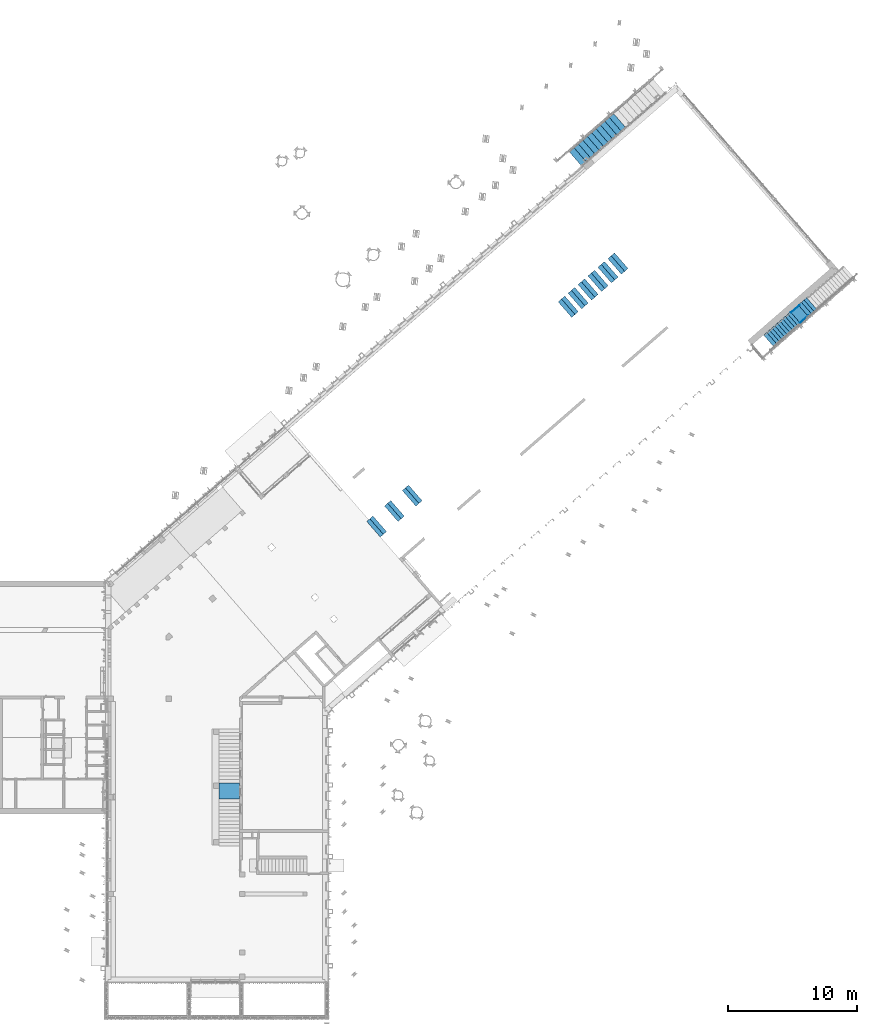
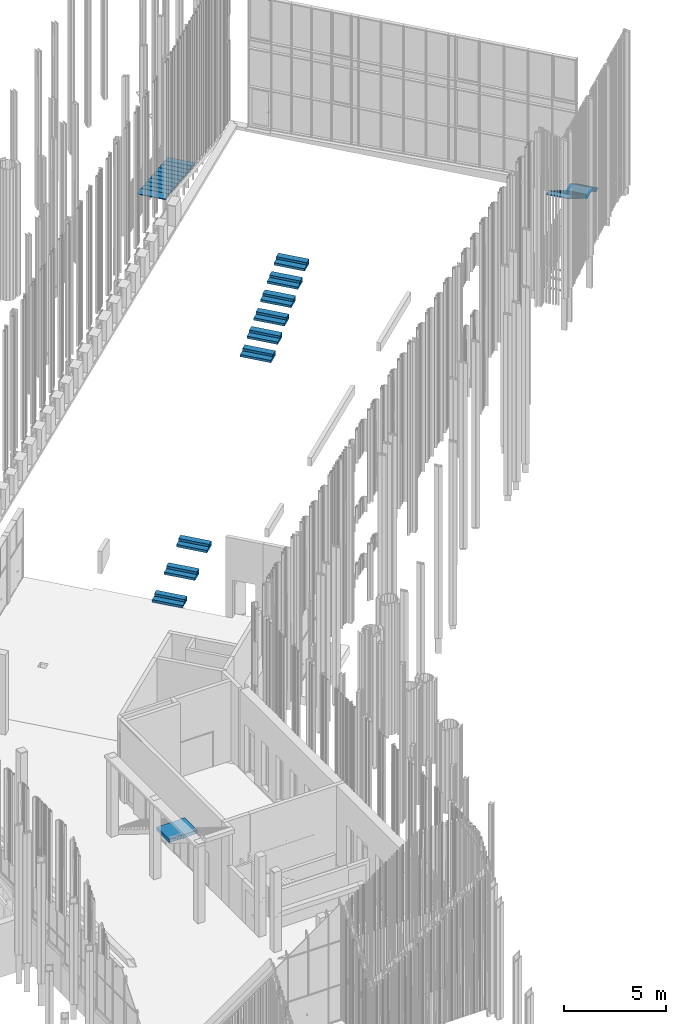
# One storey, part 26 of 390: 44 stairs, 3 elements without a shape of their own.
"""IFC2X3 building model written with IfcOpenShell, lengths in millimetres."""

from ifc_helpers import new_model, entity, si_unit, converted_unit, derived_unit, money_unit, direction, frame, origin_with_axes, place, context, subcontext, project, spatial, polyline, outline, extrude, faceted_brep, material, material_list, element, aggregate, save


model = new_model("IFC2X3")

# Units and contexts
model_context = context("Model", 3, precision=1e-05, world=origin_with_axes(), true_north=direction((0.0, 1.0)))
body_context = subcontext(model_context, "Body", "Model", "MODEL_VIEW")
ifc_project = project(units=[si_unit("LENGTHUNIT", "METRE", prefix="MILLI"), si_unit("AREAUNIT", "SQUARE_METRE"), si_unit("VOLUMEUNIT", "CUBIC_METRE"), converted_unit("PLANEANGLEUNIT", "DEGREE", entity("IfcPlaneAngleMeasure", 0.0174532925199), si_unit("PLANEANGLEUNIT", "RADIAN"), dimensions=[0, 0, 0, 0, 0, 0, 0]), si_unit("SOLIDANGLEUNIT", "STERADIAN"), money_unit("EUR"), converted_unit("TIMEUNIT", "Year", entity("IfcTimeMeasure", 31556926.0), si_unit("TIMEUNIT", "SECOND"), dimensions=[0, 0, 1, 0, 0, 0, 0]), si_unit("MASSUNIT", "GRAM", prefix="KILO"), si_unit("THERMODYNAMICTEMPERATUREUNIT", "DEGREE_CELSIUS"), si_unit("LUMINOUSINTENSITYUNIT", "LUMEN"), si_unit("ENERGYUNIT", "JOULE", prefix="MEGA"), derived_unit("THERMALCONDUCTANCEUNIT", [(si_unit("POWERUNIT", "WATT"), 1), (si_unit("LENGTHUNIT", "METRE"), -1), (si_unit("THERMODYNAMICTEMPERATUREUNIT", "KELVIN"), -1)]), derived_unit("SPECIFICHEATCAPACITYUNIT", [(si_unit("ENERGYUNIT", "JOULE"), 1), (si_unit("MASSUNIT", "GRAM", prefix="KILO"), -1), (si_unit("THERMODYNAMICTEMPERATUREUNIT", "KELVIN"), -1)]), derived_unit("MASSDENSITYUNIT", [(si_unit("MASSUNIT", "GRAM", prefix="KILO"), 1), (si_unit("VOLUMEUNIT", "CUBIC_METRE"), -1)])], contexts=[model_context])

# Site, building, storey
site_placement = place(None, origin_with_axes())
site = spatial("IfcSite", under=ifc_project, at=site_placement, Name="Site", CompositionType="ELEMENT")
building_placement = place(site_placement, origin_with_axes())
building = spatial("IfcBuilding", under=site, at=building_placement, Name="Building", CompositionType="ELEMENT")
storey_placement = place(building_placement, origin_with_axes())
storey = spatial("IfcBuildingStorey", under=building, at=storey_placement, Name="1 korrus", CompositionType="ELEMENT", Elevation=0.0)

# Stairs
ifc_material_1 = material(Name="Vineer")
stair_1_placement = place(storey_placement, frame((144585.286377, 82641.9593608, 600.0), z_axis=(0.0, 0.0, 1.0), x_axis=(1.0, 0.0, 0.0)))
element("IfcStair", 1, at=stair_1_placement, inside=storey, material=ifc_material_1, Name="Vineer", ShapeType="NOTDEFINED", context=body_context, shape_type="SweptSolid", body=[
    extrude(outline(polyline([(0.0, 0.0), (-483.014135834, -419.877773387), (566.680297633, -1627.41311297), (1049.694429, -1207.53533445), (0.0, 0.0)])), frame((0.0, 0.0, -150.0), z_axis=(0.0, 0.0, 1.0), x_axis=(1.0, 0.0, 0.0)), (0.0, 0.0, 1.0), 150.0),
])
stair_2_placement = place(storey_placement, frame((144585.286375, 82641.9593627, 750.0), z_axis=(0.0, 0.0, 1.0), x_axis=(1.0, 0.0, 0.0)))
element("IfcStair", 2, at=stair_2_placement, inside=storey, material=ifc_material_1, Name="Vineer", ShapeType="NOTDEFINED", context=body_context, shape_type="SweptSolid", body=[
    extrude(outline(polyline([(0.0, 0.0), (-241.507067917, -209.938886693), (808.18736555, -1417.47422628), (1049.69443064, -1207.53533633), (0.0, 0.0)])), frame((0.0, 0.0, -150.0), z_axis=(0.0, 0.0, 1.0), x_axis=(1.0, 0.0, 0.0)), (0.0, 0.0, 1.0), 150.0),
])
stair_3_placement = place(storey_placement, frame((143206.683511, 81443.5581337, 150.0), z_axis=(0.0, 0.0, 1.0), x_axis=(1.0, 0.0, 0.0)))
element("IfcStair", 3, at=stair_3_placement, inside=storey, material=ifc_material_1, Name="Vineer", ShapeType="NOTDEFINED", context=body_context, shape_type="Brep", body=[
    faceted_brep([(587.396879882, -1331.15175253, -250.0), (587.396879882, -1331.15175253, -300.0), (911.921987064, -1049.04626643, -300.0), (911.921987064, -1049.04626643, -85.382637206), (436.454871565, -1462.36356931, -85.382637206), (436.454886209, -1462.36355658, -150.0), (587.396879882, -1331.15175253, -150.0), (-324.525154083, -282.105406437, -150.0), (-324.525154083, -282.105406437, -300.0), (0.0, 0.0, -300.0), (1049.69443073, -1207.53533644, 0.0), (1049.69438002, -1207.5352781, -85.382637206), (0.0, 0.0, 0.0), (574.227274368, -1620.85257159, -85.382637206), (574.227352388, -1620.85266134, -150.0), (566.680297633, -1627.41311297, -150.0), (-483.014135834, -419.877773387, -150.0), (-483.014135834, -419.877773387, 0.0), (566.680297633, -1627.41311297, 0.0)], [[[0, 1, 2, 3, 4, 5, 6]], [[0, 6, 7, 8, 1]], [[1, 8, 9, 2]], [[10, 11, 3, 2, 9, 12]], [[3, 11, 13, 4]], [[14, 5, 4, 13]], [[6, 5, 14, 15, 16, 7]], [[7, 16, 17, 12, 9, 8]], [[15, 14, 13, 11, 10, 18]], [[17, 18, 10, 12]], [[16, 15, 18, 17]]]),
])
stair_4_placement = place(storey_placement, frame((143206.683513, 81443.5581318, 300.0), z_axis=(0.0, 0.0, 1.0), x_axis=(1.0, 0.0, 0.0)))
element("IfcStair", 4, at=stair_4_placement, inside=storey, material=ifc_material_1, Name="Vineer", ShapeType="NOTDEFINED", context=body_context, shape_type="SweptSolid", body=[
    extrude(outline(polyline([(0.0, 0.0), (-241.507067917, -209.938886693), (808.18736555, -1417.47422628), (1049.69442909, -1207.53533455), (0.0, 0.0)])), frame((0.0, 0.0, -150.0), z_axis=(0.0, 0.0, 1.0), x_axis=(1.0, 0.0, 0.0)), (0.0, 0.0, 1.0), 150.0),
])
stair_5_placement = place(storey_placement, frame((145963.889179, 83840.3605295, 1200.0), z_axis=(0.0, 0.0, 1.0), x_axis=(1.0, 0.0, 0.0)))
element("IfcStair", 5, at=stair_5_placement, inside=storey, material=ifc_material_1, Name="Vineer", ShapeType="NOTDEFINED", context=body_context, shape_type="SweptSolid", body=[
    extrude(outline(polyline([(0.0, 0.0), (-241.507067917, -209.938886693), (808.18736555, -1417.47422628), (1049.6944297, -1207.53533526), (0.0, 0.0)])), frame((0.0, 0.0, -150.0), z_axis=(0.0, 0.0, 1.0), x_axis=(1.0, 0.0, 0.0)), (0.0, 0.0, 1.0), 150.0),
])
stair_6_placement = place(storey_placement, frame((145963.889177, 83840.3605314, 1050.0), z_axis=(0.0, 0.0, 1.0), x_axis=(1.0, 0.0, 0.0)))
element("IfcStair", 6, at=stair_6_placement, inside=storey, material=ifc_material_1, Name="Vineer", ShapeType="NOTDEFINED", context=body_context, shape_type="SweptSolid", body=[
    extrude(outline(polyline([(0.0, 0.0), (-483.014135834, -419.877773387), (566.680297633, -1627.41311297), (1049.69443135, -1207.53533715), (0.0, 0.0)])), frame((0.0, 0.0, -150.0), z_axis=(0.0, 0.0, 1.0), x_axis=(1.0, 0.0, 0.0)), (0.0, 0.0, 1.0), 150.0),
])

stair_7_placement = place(storey_placement, frame((132879.999997, 64960.0000158, 0.0), z_axis=(0.0, 0.0, 1.0), x_axis=(1.0, 0.0, 0.0)))
stair_7 = element("IfcStair", 7, at=stair_7_placement, inside=storey, Name="T-04", ShapeType="NOTDEFINED")
ifc_material_2 = material(Name="GENEERILINE - KONSTRUKTRIOON")
stair_8_placement = place(stair_7_placement, origin_with_axes())
stair_8 = element("IfcStair", 8, at=stair_8_placement, material=ifc_material_2, Name="GENEERILINE - KONSTRUKTRIOON", ShapeType="NOTDEFINED", context=body_context, shape_type="Brep", body=[
    faceted_brep([(0.0, -4200.0, 2581.33333333), (-1600.0, -4200.0, 2581.33333333), (-1600.0, -4200.0, 2781.33333333), (0.0, -4200.0, 2781.33333333), (0.0, -4480.0, 2581.33333333), (-0.000398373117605, -5340.0, 2581.33333333), (-0.000388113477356, -5440.00097817, 2581.33333333), (-1600.00038811, -5440.00114232, 2581.33333333), (-1600.00039837, -5339.99918409, 2581.33333333), (-1600.0, -4480.00000002, 2581.33333333), (-1600.0, -4480.00000002, 2781.33333333), (-1600.00039837, -5339.99918409, 2781.33333333), (-1600.00038811, -5440.00114232, 2781.33333333), (-0.000388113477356, -5440.00097817, 2781.33333333), (-0.000398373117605, -5340.0, 2781.33333333), (0.0, -4480.0, 2781.33333333)], [[[0, 1, 2, 3]], [[0, 4, 5, 6, 7, 8, 9, 1]], [[1, 9, 10, 2]], [[3, 2, 10, 11, 12, 13, 14, 15]], [[4, 0, 3, 15]], [[5, 4, 15, 14]], [[6, 5, 14, 13]], [[7, 6, 13, 12]], [[8, 7, 12, 11]], [[9, 8, 11, 10]]]),
])
aggregate(stair_7, [stair_8])

stair_9_placement = place(storey_placement, frame((161913.30604, 101825.767542, 1657.125), z_axis=(0.0, 0.0, 1.0), x_axis=(1.0, 0.0, 0.0)))
element("IfcStair", 9, at=stair_9_placement, inside=storey, material=ifc_material_2, Name="GENEERILINE - KONSTRUKTRIOON", ShapeType="NOTDEFINED", context=body_context, shape_type="SweptSolid", body=[
    extrude(outline(polyline([(0.0, 0.0), (-256.601258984, -223.060067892), (793.093174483, -1430.59540748), (1049.6944295, -1207.53533502), (0.0, 0.0)])), frame((0.0, 0.0, -142.0), z_axis=(0.0, 0.0, 1.0), x_axis=(1.0, 0.0, 0.0)), (0.0, 0.0, 1.0), 142.0),
])
for number, where, z_axis, x_axis in (
    (10, (161913.306041, 101825.76754, 1515.125), (0.0, 0.0, 1.0), (1.0, 0.0, 0.0)),
    (11, (158064.287198, 98479.8664738, -619.25), (0.0, 0.0, 1.0), (1.0, 0.0, 0.0)),
):
    element("IfcStair", number, at=place(storey_placement, frame(where, z_axis=z_axis, x_axis=x_axis)), inside=storey, material=ifc_material_2, Name="GENEERILINE - KONSTRUKTRIOON", ShapeType="NOTDEFINED", context=body_context, shape_type="SweptSolid", body=[
        extrude(outline(polyline([(0.0, 0.0), (-513.2025186, -446.120135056), (536.491914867, -1653.65547464), (1049.69443091, -1207.53533664), (0.0, 0.0)])), frame((0.0, 0.0, -142.0), z_axis=(0.0, 0.0, 1.0), x_axis=(1.0, 0.0, 0.0)), (0.0, 0.0, 1.0), 142.0),
    ])
stair_10_placement = place(storey_placement, frame((158064.287199, 98479.8664722, -477.25), z_axis=(0.0, 0.0, 1.0), x_axis=(1.0, 0.0, 0.0)))
element("IfcStair", 12, at=stair_10_placement, inside=storey, material=ifc_material_2, Name="GENEERILINE - KONSTRUKTRIOON", ShapeType="NOTDEFINED", context=body_context, shape_type="SweptSolid", body=[
    extrude(outline(polyline([(0.0, 0.0), (-256.601258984, -223.060067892), (793.093174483, -1430.59540748), (1049.6944295, -1207.53533502), (0.0, 0.0)])), frame((0.0, 0.0, -142.0), z_axis=(0.0, 0.0, 1.0), x_axis=(1.0, 0.0, 0.0)), (0.0, 0.0, 1.0), 142.0),
])
stair_11_placement = place(storey_placement, frame((158834.090967, 99149.0466862, -192.375), z_axis=(0.0, 0.0, 1.0), x_axis=(1.0, 0.0, 0.0)))
element("IfcStair", 13, at=stair_11_placement, inside=storey, material=ifc_material_2, Name="GENEERILINE - KONSTRUKTRIOON", ShapeType="NOTDEFINED", context=body_context, shape_type="SweptSolid", body=[
    extrude(outline(polyline([(0.0, 0.0), (-513.2025186, -446.120135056), (536.491914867, -1653.65547464), (1049.69443091, -1207.53533664), (0.0, 0.0)])), frame((0.0, 0.0, -142.0), z_axis=(0.0, 0.0, 1.0), x_axis=(1.0, 0.0, 0.0)), (0.0, 0.0, 1.0), 142.0),
])
stair_12_placement = place(storey_placement, frame((158834.090969, 99149.0466846, -50.375), z_axis=(0.0, 0.0, 1.0), x_axis=(1.0, 0.0, 0.0)))
element("IfcStair", 14, at=stair_12_placement, inside=storey, material=ifc_material_2, Name="GENEERILINE - KONSTRUKTRIOON", ShapeType="NOTDEFINED", context=body_context, shape_type="SweptSolid", body=[
    extrude(outline(polyline([(0.0, 0.0), (-256.601258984, -223.060067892), (793.093174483, -1430.59540748), (1049.6944295, -1207.53533502), (0.0, 0.0)])), frame((0.0, 0.0, -142.0), z_axis=(0.0, 0.0, 1.0), x_axis=(1.0, 0.0, 0.0)), (0.0, 0.0, 1.0), 142.0),
])
stair_13_placement = place(storey_placement, frame((159603.894737, 99818.2268986, 234.5), z_axis=(0.0, 0.0, 1.0), x_axis=(1.0, 0.0, 0.0)))
element("IfcStair", 15, at=stair_13_placement, inside=storey, material=ifc_material_2, Name="GENEERILINE - KONSTRUKTRIOON", ShapeType="NOTDEFINED", context=body_context, shape_type="SweptSolid", body=[
    extrude(outline(polyline([(0.0, 0.0), (-513.2025186, -446.120135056), (536.491914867, -1653.65547464), (1049.69443091, -1207.53533664), (0.0, 0.0)])), frame((0.0, 0.0, -142.0), z_axis=(0.0, 0.0, 1.0), x_axis=(1.0, 0.0, 0.0)), (0.0, 0.0, 1.0), 142.0),
])
stair_14_placement = place(storey_placement, frame((159603.894738, 99818.226897, 376.5), z_axis=(0.0, 0.0, 1.0), x_axis=(1.0, 0.0, 0.0)))
element("IfcStair", 16, at=stair_14_placement, inside=storey, material=ifc_material_2, Name="GENEERILINE - KONSTRUKTRIOON", ShapeType="NOTDEFINED", context=body_context, shape_type="SweptSolid", body=[
    extrude(outline(polyline([(0.0, 0.0), (-256.601258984, -223.060067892), (793.093174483, -1430.59540748), (1049.6944295, -1207.53533502), (0.0, 0.0)])), frame((0.0, 0.0, -142.0), z_axis=(0.0, 0.0, 1.0), x_axis=(1.0, 0.0, 0.0)), (0.0, 0.0, 1.0), 142.0),
])
stair_15_placement = place(storey_placement, frame((160373.698506, 100487.407111, 661.375), z_axis=(0.0, 0.0, 1.0), x_axis=(1.0, 0.0, 0.0)))
element("IfcStair", 17, at=stair_15_placement, inside=storey, material=ifc_material_2, Name="GENEERILINE - KONSTRUKTRIOON", ShapeType="NOTDEFINED", context=body_context, shape_type="SweptSolid", body=[
    extrude(outline(polyline([(0.0, 0.0), (-513.2025186, -446.120135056), (536.491914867, -1653.65547464), (1049.69443091, -1207.53533664), (0.0, 0.0)])), frame((0.0, 0.0, -142.0), z_axis=(0.0, 0.0, 1.0), x_axis=(1.0, 0.0, 0.0)), (0.0, 0.0, 1.0), 142.0),
])
stair_16_placement = place(storey_placement, frame((160373.698507, 100487.407109, 803.375), z_axis=(0.0, 0.0, 1.0), x_axis=(1.0, 0.0, 0.0)))
element("IfcStair", 18, at=stair_16_placement, inside=storey, material=ifc_material_2, Name="GENEERILINE - KONSTRUKTRIOON", ShapeType="NOTDEFINED", context=body_context, shape_type="SweptSolid", body=[
    extrude(outline(polyline([(0.0, 0.0), (-256.601258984, -223.060067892), (793.093174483, -1430.59540748), (1049.6944295, -1207.53533502), (0.0, 0.0)])), frame((0.0, 0.0, -142.0), z_axis=(0.0, 0.0, 1.0), x_axis=(1.0, 0.0, 0.0)), (0.0, 0.0, 1.0), 142.0),
])
stair_17_placement = place(storey_placement, frame((161143.502275, 101156.587323, 1088.25), z_axis=(0.0, 0.0, 1.0), x_axis=(1.0, 0.0, 0.0)))
element("IfcStair", 19, at=stair_17_placement, inside=storey, material=ifc_material_2, Name="GENEERILINE - KONSTRUKTRIOON", ShapeType="NOTDEFINED", context=body_context, shape_type="SweptSolid", body=[
    extrude(outline(polyline([(0.0, 0.0), (-513.2025186, -446.120135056), (536.491914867, -1653.65547464), (1049.69443091, -1207.53533664), (0.0, 0.0)])), frame((0.0, 0.0, -142.0), z_axis=(0.0, 0.0, 1.0), x_axis=(1.0, 0.0, 0.0)), (0.0, 0.0, 1.0), 142.0),
])
stair_18_placement = place(storey_placement, frame((161143.502277, 101156.587322, 1230.25), z_axis=(0.0, 0.0, 1.0), x_axis=(1.0, 0.0, 0.0)))
element("IfcStair", 20, at=stair_18_placement, inside=storey, material=ifc_material_2, Name="GENEERILINE - KONSTRUKTRIOON", ShapeType="NOTDEFINED", context=body_context, shape_type="SweptSolid", body=[
    extrude(outline(polyline([(0.0, 0.0), (-256.601258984, -223.060067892), (793.093174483, -1430.59540748), (1049.6944295, -1207.53533502), (0.0, 0.0)])), frame((0.0, 0.0, -142.0), z_axis=(0.0, 0.0, 1.0), x_axis=(1.0, 0.0, 0.0)), (0.0, 0.0, 1.0), 142.0),
])

stair_19_placement = place(storey_placement, frame((164892.524006, 115287.293826, -9.99999999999), z_axis=(0.0, 0.0, 1.0), x_axis=(1.0, 0.0, 0.0)))
stair_19 = element("IfcStair", 21, at=stair_19_placement, inside=storey, Name="T-12", ShapeType="NOTDEFINED")
ifc_material_3 = material(Name="Teras (musta värvi)")
stair_20_placement = place(stair_19_placement, frame((-2577.65070845, -3207.9770612, 900.0), z_axis=(0.0, 0.0, 1.0), x_axis=(-0.656059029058, 0.754709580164, 0.0)))
stair_20 = element("IfcStair", 22, at=stair_20_placement, material=ifc_material_3, Name="T-12", ShapeType="NOTDEFINED", context=body_context, shape_type="Brep", body=[
    faceted_brep([(-730.0, 0.0, -50.0), (730.0, 0.0, -50.0), (730.0, 0.0, 0.0), (-730.0, 0.0, 0.0), (-730.0, 490.000004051, -50.0), (730.0, 489.999999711, -50.0), (730.0, 489.999999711, 0.0), (-730.0, 490.000004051, 0.0)], [[[0, 1, 2, 3]], [[0, 4, 5, 1]], [[1, 5, 6, 2]], [[3, 2, 6, 7]], [[4, 0, 3, 7]], [[5, 4, 7, 6]]]),
])
stair_21_placement = place(stair_19_placement, frame((-2917.27001953, -3503.20362428, 990.0), z_axis=(0.0, 0.0, 1.0), x_axis=(-0.656059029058, 0.754709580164, 0.0)))
stair_21 = element("IfcStair", 23, at=stair_21_placement, material=ifc_material_3, Name="T-12", ShapeType="NOTDEFINED", context=body_context, shape_type="Brep", body=[
    faceted_brep([(-730.0, 0.0, -50.0), (730.0, 0.0, -50.0), (730.0, 0.0, 0.0), (-730.0, 0.0, 0.0), (-730.0, 490.000004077, -50.0), (730.0, 489.999999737, -50.0), (730.0, 489.999999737, 0.0), (-730.0, 490.000004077, 0.0)], [[[0, 1, 2, 3]], [[0, 4, 5, 1]], [[1, 5, 6, 2]], [[3, 2, 6, 7]], [[4, 0, 3, 7]], [[5, 4, 7, 6]]]),
])
stair_22_placement = place(stair_19_placement, frame((-3256.8893306, -3798.43018736, 1080.0), z_axis=(0.0, 0.0, 1.0), x_axis=(-0.656059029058, 0.754709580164, 0.0)))
stair_22 = element("IfcStair", 24, at=stair_22_placement, material=ifc_material_3, Name="T-12", ShapeType="NOTDEFINED", context=body_context, shape_type="Brep", body=[
    faceted_brep([(-730.0, 0.0, -50.0), (730.0, 0.0, -50.0), (730.0, 0.0, 0.0), (-730.0, 0.0, 0.0), (-730.0, 490.000004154, -50.0), (730.0, 489.999999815, -50.0), (730.0, 489.999999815, 0.0), (-730.0, 490.000004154, 0.0)], [[[0, 1, 2, 3]], [[0, 4, 5, 1]], [[1, 5, 6, 2]], [[3, 2, 6, 7]], [[4, 0, 3, 7]], [[5, 4, 7, 6]]]),
])
stair_23_placement = place(stair_19_placement, frame((-3596.50864168, -4093.65675043, 1170.0), z_axis=(0.0, 0.0, 1.0), x_axis=(-0.656059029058, 0.754709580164, 0.0)))
stair_23 = element("IfcStair", 25, at=stair_23_placement, material=ifc_material_3, Name="T-12", ShapeType="NOTDEFINED", context=body_context, shape_type="Brep", body=[
    faceted_brep([(-730.0, 0.0, -50.0), (730.0, 0.0, -50.0), (730.0, 0.0, 0.0), (-730.0, 0.0, 0.0), (-730.0, 490.000004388, -50.0), (730.0, 490.000000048, -50.0), (730.0, 490.000000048, 0.0), (-730.0, 490.000004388, 0.0)], [[[0, 1, 2, 3]], [[0, 4, 5, 1]], [[1, 5, 6, 2]], [[3, 2, 6, 7]], [[4, 0, 3, 7]], [[5, 4, 7, 6]]]),
])
stair_24_placement = place(stair_19_placement, frame((-3936.12795275, -4388.88331351, 1260.0), z_axis=(0.0, 0.0, 1.0), x_axis=(-0.656059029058, 0.754709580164, 0.0)))
stair_24 = element("IfcStair", 26, at=stair_24_placement, material=ifc_material_3, Name="T-12", ShapeType="NOTDEFINED", context=body_context, shape_type="Brep", body=[
    faceted_brep([(-730.0, 0.0, -50.0), (730.0, 0.0, -50.0), (730.0, 0.0, 0.0), (-730.0, 0.0, 0.0), (-730.0, 490.000005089, -50.0), (730.0, 490.000000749, -50.0), (730.0, 490.000000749, 0.0), (-730.0, 490.000005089, 0.0)], [[[0, 1, 2, 3]], [[0, 4, 5, 1]], [[1, 5, 6, 2]], [[3, 2, 6, 7]], [[4, 0, 3, 7]], [[5, 4, 7, 6]]]),
])
stair_25_placement = place(stair_19_placement, frame((-4275.74726382, -4684.10987658, 1350.0), z_axis=(0.0, 0.0, 1.0), x_axis=(-0.656059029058, 0.754709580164, 0.0)))
stair_25 = element("IfcStair", 27, at=stair_25_placement, material=ifc_material_3, Name="T-12", ShapeType="NOTDEFINED", context=body_context, shape_type="Brep", body=[
    faceted_brep([(-730.0, 0.0, -50.0), (730.0, 0.0, -50.0), (730.0, 0.0, 0.0), (-730.0, 0.0, 0.0), (-730.0, 490.000007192, -50.0), (730.0, 490.000002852, -50.0), (730.0, 490.000002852, 0.0), (-730.0, 490.000007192, 0.0)], [[[0, 1, 2, 3]], [[0, 4, 5, 1]], [[1, 5, 6, 2]], [[3, 2, 6, 7]], [[4, 0, 3, 7]], [[5, 4, 7, 6]]]),
])
stair_26_placement = place(stair_19_placement, frame((-4615.3665749, -4979.33643966, 1440.0), z_axis=(0.0, 0.0, 1.0), x_axis=(-0.656059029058, 0.754709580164, 0.0)))
stair_26 = element("IfcStair", 28, at=stair_26_placement, material=ifc_material_3, Name="T-12", ShapeType="NOTDEFINED", context=body_context, shape_type="Brep", body=[
    faceted_brep([(-730.0, 0.0, -50.0), (730.0, 0.0, -50.0), (730.0, 0.0, 0.0), (-730.0, 0.0, 0.0), (-730.0, 490.000004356, -50.0), (730.0, 490.000000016, -50.0), (730.0, 490.000000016, 0.0), (-730.0, 490.000004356, 0.0)], [[[0, 1, 2, 3]], [[0, 4, 5, 1]], [[1, 5, 6, 2]], [[3, 2, 6, 7]], [[4, 0, 3, 7]], [[5, 4, 7, 6]]]),
])
stair_27_placement = place(stair_19_placement, frame((-4954.98588597, -5274.56300274, 1530.0), z_axis=(0.0, 0.0, 1.0), x_axis=(-0.656059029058, 0.754709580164, 0.0)))
stair_27 = element("IfcStair", 29, at=stair_27_placement, material=ifc_material_3, Name="T-12", ShapeType="NOTDEFINED", context=body_context, shape_type="Brep", body=[
    faceted_brep([(-730.0, 0.0, -50.0), (730.0, 0.0, -50.0), (730.0, 0.0, 0.0), (-730.0, 0.0, 0.0), (-730.0, 490.000004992, -50.0), (730.0, 490.000000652, -50.0), (730.0, 490.000000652, 0.0), (-730.0, 490.000004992, 0.0)], [[[0, 1, 2, 3]], [[0, 4, 5, 1]], [[1, 5, 6, 2]], [[3, 2, 6, 7]], [[4, 0, 3, 7]], [[5, 4, 7, 6]]]),
])
stair_28_placement = place(stair_19_placement, frame((-5294.60519705, -5569.78956581, 1620.0), z_axis=(0.0, 0.0, 1.0), x_axis=(-0.656059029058, 0.754709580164, 0.0)))
stair_28 = element("IfcStair", 30, at=stair_28_placement, material=ifc_material_3, Name="T-12", ShapeType="NOTDEFINED", context=body_context, shape_type="Brep", body=[
    faceted_brep([(-730.0, 0.0, -50.0), (730.0, 0.0, -50.0), (730.0, 0.0, 0.0), (-730.0, 0.0, 0.0), (-730.0, 490.000006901, -50.0), (730.0, 490.000002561, -50.0), (730.0, 490.000002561, 0.0), (-730.0, 490.000006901, 0.0)], [[[0, 1, 2, 3]], [[0, 4, 5, 1]], [[1, 5, 6, 2]], [[3, 2, 6, 7]], [[4, 0, 3, 7]], [[5, 4, 7, 6]]]),
])
stair_29_placement = place(stair_19_placement, frame((-5634.22450812, -5865.01612889, 1710.0), z_axis=(0.0, 0.0, 1.0), x_axis=(-0.656059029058, 0.754709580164, 0.0)))
stair_29 = element("IfcStair", 31, at=stair_29_placement, material=ifc_material_3, Name="T-12", ShapeType="NOTDEFINED", context=body_context, shape_type="Brep", body=[
    faceted_brep([(-730.0, 0.0, -50.0), (730.0, 0.0, -50.0), (730.0, 0.0, 0.0), (-730.0, 0.0, 0.0), (-730.0, 450.0, -50.0), (-730.0, 490.0, -50.0), (730.0, 490.0, -50.0), (730.0, 450.0, -50.0), (730.0, 450.0, 0.0), (730.0, 490.0, 0.0), (-730.0, 490.0, 0.0), (-730.0, 450.0, 0.0)], [[[0, 1, 2, 3]], [[0, 4, 5, 6, 7, 1]], [[1, 7, 8, 2]], [[3, 2, 8, 9, 10, 11]], [[4, 0, 3, 11]], [[5, 4, 11, 10]], [[6, 5, 10, 9]], [[7, 6, 9, 8]]]),
])
aggregate(stair_19, [stair_20, stair_21, stair_22, stair_23, stair_24, stair_25, stair_26, stair_27, stair_28, stair_29])

stair_30_placement = place(storey_placement, frame((179650.317261, 100840.655313, 120.000119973), z_axis=(0.0, 0.0, 1.0), x_axis=(1.0, 0.0, 0.0)))
stair_30 = element("IfcStair", 32, at=stair_30_placement, inside=storey, Name="T-11", ShapeType="NOTDEFINED")
ifc_material_list = material_list([ifc_material_3, ifc_material_3])
stair_31_placement = place(stair_30_placement, origin_with_axes())
stair_31 = element("IfcStair", 33, at=stair_31_placement, material=ifc_material_list, Name="T-11", ShapeType="NOTDEFINED", context=body_context, shape_type="Brep", body=[
    faceted_brep([(-2739.17174903, -3845.26502576, 3099.99992553), (-2739.17174903, -3845.26502576, 3059.99992553), (-3388.34829143, -4409.58558469, 3059.99992553), (-3388.34829143, -4409.58558469, 3099.99992553), (-2712.92938786, -3875.45340896, 3099.99992553), (-2712.92938786, -3875.45340896, 3059.99992553), (-3362.10593026, -4439.7739679, 3059.99992553), (-3362.10593026, -4439.7739679, 3099.99992553)], [[[0, 1, 2, 3]], [[0, 4, 5, 1]], [[1, 5, 6, 2]], [[3, 2, 6, 7]], [[4, 0, 3, 7]], [[5, 4, 7, 6]]]),
    faceted_brep([(-3428.03372231, -3052.81997494, 3099.99992553), (-3428.03372231, -3052.81997494, 3059.99992553), (-4077.21026468, -3617.14053386, 3059.99992553), (-4077.21026468, -3617.14053386, 3099.99992553), (-3401.79136114, -3083.00835815, 3099.99992553), (-3401.79136114, -3083.00835815, 3059.99992553), (-4050.96790351, -3647.32891706, 3059.99992553), (-4050.96790351, -3647.32891706, 3099.99992553)], [[[0, 1, 2, 3]], [[0, 4, 5, 1]], [[1, 5, 6, 2]], [[3, 2, 6, 7]], [[4, 0, 3, 7]], [[5, 4, 7, 6]]]),
])
stair_32_placement = place(stair_30_placement, frame((-2459.16679552, -2932.72887799, 2624.99993794), z_axis=(0.0, 0.0, 1.0), x_axis=(-0.656059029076, 0.754709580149, 0.0)))
stair_32 = element("IfcStair", 34, at=stair_32_placement, material=ifc_material_3, Name="T-11", ShapeType="NOTDEFINED", context=body_context, shape_type="Brep", body=[
    faceted_brep([(-600.0, 0.0, -50.0), (600.0, 0.0, -50.0), (600.0, 0.0, 0.0), (-600.0, 0.0, 0.0), (-600.0, 320.000002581, -50.0), (600.0, 319.999997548, -50.0), (600.0, 319.999997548, 0.0), (-600.0, 320.000002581, 0.0)], [[[0, 1, 2, 3]], [[0, 4, 5, 1]], [[1, 5, 6, 2]], [[3, 2, 6, 7]], [[4, 0, 3, 7]], [[5, 4, 7, 6]]]),
])
stair_33_placement = place(stair_30_placement, frame((-2662.93838216, -3109.86481585, 2799.99993381), z_axis=(0.0, 0.0, 1.0), x_axis=(-0.656059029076, 0.754709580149, 0.0)))
stair_33 = element("IfcStair", 35, at=stair_33_placement, material=ifc_material_3, Name="T-11", ShapeType="NOTDEFINED", context=body_context, shape_type="Brep", body=[
    faceted_brep([(-600.0, 0.0, -50.0), (600.0, 0.0, -50.0), (600.0, 0.0, 0.0), (-600.0, 0.0, 0.0), (-600.0, 320.000000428, -50.0), (600.0, 319.999995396, -50.0), (600.0, 319.999995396, 0.0), (-600.0, 320.000000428, 0.0)], [[[0, 1, 2, 3]], [[0, 4, 5, 1]], [[1, 5, 6, 2]], [[3, 2, 6, 7]], [[4, 0, 3, 7]], [[5, 4, 7, 6]]]),
])
stair_34_placement = place(stair_30_placement, frame((-2866.7099688, -3287.0007537, 2974.99992967), z_axis=(0.0, 0.0, 1.0), x_axis=(-0.656059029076, 0.754709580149, 0.0)))
stair_34 = element("IfcStair", 36, at=stair_34_placement, material=ifc_material_3, Name="T-11", ShapeType="NOTDEFINED", context=body_context, shape_type="Brep", body=[
    faceted_brep([(-600.0, 0.0, -50.0), (600.0, 0.0, -50.0), (600.0, 0.0, 0.0), (-600.0, 0.0, 0.0), (-600.0, 319.999999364, -50.0), (600.0, 320.000005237, -50.0), (600.0, 320.000005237, 0.0), (-600.0, 319.999999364, 0.0)], [[[0, 1, 2, 3]], [[0, 4, 5, 1]], [[1, 5, 6, 2]], [[3, 2, 6, 7]], [[4, 0, 3, 7]], [[5, 4, 7, 6]]]),
])
stair_35_placement = place(stair_30_placement, frame((-3070.48155544, -3464.13669155, 3149.99992553), z_axis=(0.0, 0.0, 1.0), x_axis=(-0.656059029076, 0.754709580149, 0.0)))
stair_35 = element("IfcStair", 37, at=stair_35_placement, material=ifc_material_3, Name="T-11", ShapeType="NOTDEFINED", context=body_context, shape_type="Brep", body=[
    faceted_brep([(-600.0, 0.0, -50.0), (600.0, 0.0, -50.0), (600.0, 0.0, 0.0), (-600.0, 0.0, 0.0), (-600.0, 152.452367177, -50.0), (-599.999999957, 860.16734348, -50.0), (-599.999999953, 910.167349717, -50.0), (600.000000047, 910.167350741, -50.0), (600.000000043, 860.167343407, -50.0), (600.0, 152.452367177, -50.0), (600.0, 152.452367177, 0.0), (600.000000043, 860.167343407, 0.0), (600.000000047, 910.167350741, 0.0), (-599.999999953, 910.167349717, 0.0), (-599.999999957, 860.16734348, 0.0), (-600.0, 152.452367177, 0.0)], [[[0, 1, 2, 3]], [[0, 4, 5, 6, 7, 8, 9, 1]], [[1, 9, 10, 2]], [[3, 2, 10, 11, 12, 13, 14, 15]], [[4, 0, 3, 15]], [[5, 4, 15, 14]], [[6, 5, 14, 13]], [[7, 6, 13, 12]], [[8, 7, 12, 11]], [[9, 8, 11, 10]]]),
])
stair_36_placement = place(stair_30_placement, frame((-3719.6580901, -4028.4572437, 3324.9999214), z_axis=(0.0, 0.0, 1.0), x_axis=(-0.65605902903, 0.754709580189, 0.0)))
stair_36 = element("IfcStair", 38, at=stair_36_placement, material=ifc_material_3, Name="T-11", ShapeType="NOTDEFINED", context=body_context, shape_type="Brep", body=[
    faceted_brep([(600.000004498, 319.999992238, -50.0), (-600.000003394, 319.999997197, -50.0), (-600.000003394, 319.999997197, 0.0), (600.000004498, 319.999992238, 0.0), (600.00000012, 1.31857191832e-07, -50.0), (-599.999995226, -5.81474512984e-06, -50.0), (-599.999995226, -5.81474512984e-06, 0.0), (600.00000012, 1.31857191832e-07, 0.0)], [[[0, 1, 2, 3]], [[0, 4, 5, 1]], [[1, 5, 6, 2]], [[3, 2, 6, 7]], [[4, 0, 3, 7]], [[5, 4, 7, 6]]]),
])
stair_37_placement = place(stair_30_placement, frame((-3923.42967675, -4205.59318154, 3499.99991726), z_axis=(0.0, 0.0, 1.0), x_axis=(-0.656059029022, 0.754709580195, 0.0)))
stair_37 = element("IfcStair", 39, at=stair_37_placement, material=ifc_material_3, Name="T-11", ShapeType="NOTDEFINED", context=body_context, shape_type="Brep", body=[
    faceted_brep([(-600.0, 0.0, -50.0), (600.0, 0.0, -50.0), (600.0, 0.0, 0.0), (-600.0, 0.0, 0.0), (-600.0, 319.999998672, -50.0), (600.0, 320.000004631, -50.0), (600.0, 320.000004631, 0.0), (-600.0, 319.999998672, 0.0)], [[[0, 1, 2, 3]], [[0, 4, 5, 1]], [[1, 5, 6, 2]], [[3, 2, 6, 7]], [[4, 0, 3, 7]], [[5, 4, 7, 6]]]),
])
stair_38_placement = place(stair_30_placement, frame((-4127.2012634, -4382.72911937, 3674.99991312), z_axis=(0.0, 0.0, 1.0), x_axis=(-0.656059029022, 0.754709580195, 0.0)))
stair_38 = element("IfcStair", 40, at=stair_38_placement, material=ifc_material_3, Name="T-11", ShapeType="NOTDEFINED", context=body_context, shape_type="Brep", body=[
    faceted_brep([(-600.0, 0.0, -50.0), (600.0, 0.0, -50.0), (600.0, 0.0, 0.0), (-600.0, 0.0, 0.0), (-600.0, 319.999997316, -50.0), (600.0, 320.000003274, -50.0), (600.0, 320.000003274, 0.0), (-600.0, 319.999997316, 0.0)], [[[0, 1, 2, 3]], [[0, 4, 5, 1]], [[1, 5, 6, 2]], [[3, 2, 6, 7]], [[4, 0, 3, 7]], [[5, 4, 7, 6]]]),
])
stair_39_placement = place(stair_30_placement, frame((-4330.97285006, -4559.86505721, 3849.99990899), z_axis=(0.0, 0.0, 1.0), x_axis=(-0.656059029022, 0.754709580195, 0.0)))
stair_39 = element("IfcStair", 41, at=stair_39_placement, material=ifc_material_3, Name="T-11", ShapeType="NOTDEFINED", context=body_context, shape_type="Brep", body=[
    faceted_brep([(-600.0, 0.0, -50.0), (600.0, 0.0, -50.0), (600.0, 0.0, 0.0), (-600.0, 0.0, 0.0), (-600.0, 320.000001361, -50.0), (600.0, 319.999996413, -50.0), (600.0, 319.999996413, 0.0), (-600.0, 320.000001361, 0.0)], [[[0, 1, 2, 3]], [[0, 4, 5, 1]], [[1, 5, 6, 2]], [[3, 2, 6, 7]], [[4, 0, 3, 7]], [[5, 4, 7, 6]]]),
])
stair_40_placement = place(stair_30_placement, frame((-4534.74443671, -4737.00099504, 4024.99990485), z_axis=(0.0, 0.0, 1.0), x_axis=(-0.656059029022, 0.754709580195, 0.0)))
stair_40 = element("IfcStair", 42, at=stair_40_placement, material=ifc_material_3, Name="T-11", ShapeType="NOTDEFINED", context=body_context, shape_type="Brep", body=[
    faceted_brep([(-600.0, 0.0, -50.0), (600.0, 0.0, -50.0), (600.0, 0.0, 0.0), (-600.0, 0.0, 0.0), (-600.0, 320.000002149, -50.0), (600.0, 319.999997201, -50.0), (600.0, 319.999997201, 0.0), (-600.0, 320.000002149, 0.0)], [[[0, 1, 2, 3]], [[0, 4, 5, 1]], [[1, 5, 6, 2]], [[3, 2, 6, 7]], [[4, 0, 3, 7]], [[5, 4, 7, 6]]]),
])
stair_41_placement = place(stair_30_placement, frame((-4738.51602336, -4914.13693288, 4199.99990071), z_axis=(0.0, 0.0, 1.0), x_axis=(-0.656059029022, 0.754709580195, 0.0)))
stair_41 = element("IfcStair", 43, at=stair_41_placement, material=ifc_material_3, Name="T-11", ShapeType="NOTDEFINED", context=body_context, shape_type="Brep", body=[
    faceted_brep([(-600.0, 0.0, -50.0), (600.0, 0.0, -50.0), (600.0, 0.0, 0.0), (-600.0, 0.0, 0.0), (-600.0, 320.000001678, -50.0), (600.0, 319.99999673, -50.0), (600.0, 319.99999673, 0.0), (-600.0, 320.000001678, 0.0)], [[[0, 1, 2, 3]], [[0, 4, 5, 1]], [[1, 5, 6, 2]], [[3, 2, 6, 7]], [[4, 0, 3, 7]], [[5, 4, 7, 6]]]),
])
stair_42_placement = place(stair_30_placement, frame((-4942.28761001, -5091.27287072, 4374.99989657), z_axis=(0.0, 0.0, 1.0), x_axis=(-0.656059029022, 0.754709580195, 0.0)))
stair_42 = element("IfcStair", 44, at=stair_42_placement, material=ifc_material_3, Name="T-11", ShapeType="NOTDEFINED", context=body_context, shape_type="Brep", body=[
    faceted_brep([(-600.0, 0.0, -50.0), (600.0, 0.0, -50.0), (600.0, 0.0, 0.0), (-600.0, 0.0, 0.0), (-600.0, 320.000002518, -50.0), (600.0, 319.99999757, -50.0), (600.0, 319.99999757, 0.0), (-600.0, 320.000002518, 0.0)], [[[0, 1, 2, 3]], [[0, 4, 5, 1]], [[1, 5, 6, 2]], [[3, 2, 6, 7]], [[4, 0, 3, 7]], [[5, 4, 7, 6]]]),
])
stair_43_placement = place(stair_30_placement, frame((-5146.05919667, -5268.40880855, 4549.99989244), z_axis=(0.0, 0.0, 1.0), x_axis=(-0.656059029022, 0.754709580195, 0.0)))
stair_43 = element("IfcStair", 45, at=stair_43_placement, material=ifc_material_3, Name="T-11", ShapeType="NOTDEFINED", context=body_context, shape_type="Brep", body=[
    faceted_brep([(-600.0, 0.0, -50.0), (600.0, 0.0, -50.0), (600.0, 0.0, 0.0), (-600.0, 0.0, 0.0), (-600.0, 320.000000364, -50.0), (600.0, 319.999995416, -50.0), (600.0, 319.999995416, 0.0), (-600.0, 320.000000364, 0.0)], [[[0, 1, 2, 3]], [[0, 4, 5, 1]], [[1, 5, 6, 2]], [[3, 2, 6, 7]], [[4, 0, 3, 7]], [[5, 4, 7, 6]]]),
])
stair_44_placement = place(stair_30_placement, frame((-5349.83078332, -5445.54474639, 4724.9998883), z_axis=(0.0, 0.0, 1.0), x_axis=(-0.656059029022, 0.754709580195, 0.0)))
stair_44 = element("IfcStair", 46, at=stair_44_placement, material=ifc_material_3, Name="T-11", ShapeType="NOTDEFINED", context=body_context, shape_type="Brep", body=[
    faceted_brep([(-600.0, 0.0, -50.0), (600.0, 0.0, -50.0), (600.0, 0.0, 0.0), (-600.0, 0.0, 0.0), (-600.0, 319.999999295, -50.0), (600.0, 320.000005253, -50.0), (600.0, 320.000005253, 0.0), (-600.0, 319.999999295, 0.0)], [[[0, 1, 2, 3]], [[0, 4, 5, 1]], [[1, 5, 6, 2]], [[3, 2, 6, 7]], [[4, 0, 3, 7]], [[5, 4, 7, 6]]]),
])
stair_45_placement = place(stair_30_placement, frame((-5553.60236997, -5622.68068422, 4899.99988416), z_axis=(0.0, 0.0, 1.0), x_axis=(-0.656059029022, 0.754709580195, 0.0)))
stair_45 = element("IfcStair", 47, at=stair_45_placement, material=ifc_material_3, Name="T-11", ShapeType="NOTDEFINED", context=body_context, shape_type="Brep", body=[
    faceted_brep([(-600.0, 0.0, -50.0), (600.0, 0.0, -50.0), (600.0, 0.0, 0.0), (-600.0, 0.0, 0.0), (-600.0, 270.000000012, -50.0), (-600.0, 320.0, -50.0), (600.0, 320.0, -50.0), (600.0, 270.000000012, -50.0), (600.0, 270.000000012, 0.0), (600.0, 320.0, 0.0), (-600.0, 320.0, 0.0), (-600.0, 270.000000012, 0.0)], [[[0, 1, 2, 3]], [[0, 4, 5, 6, 7, 1]], [[1, 7, 8, 2]], [[3, 2, 8, 9, 10, 11]], [[4, 0, 3, 11]], [[5, 4, 11, 10]], [[6, 5, 10, 9]], [[7, 6, 9, 8]]]),
])
aggregate(stair_30, [stair_31, stair_32, stair_33, stair_34, stair_35, stair_36, stair_37, stair_38, stair_39, stair_40, stair_41, stair_42, stair_43, stair_44, stair_45])

save(model, "model.ifc")
